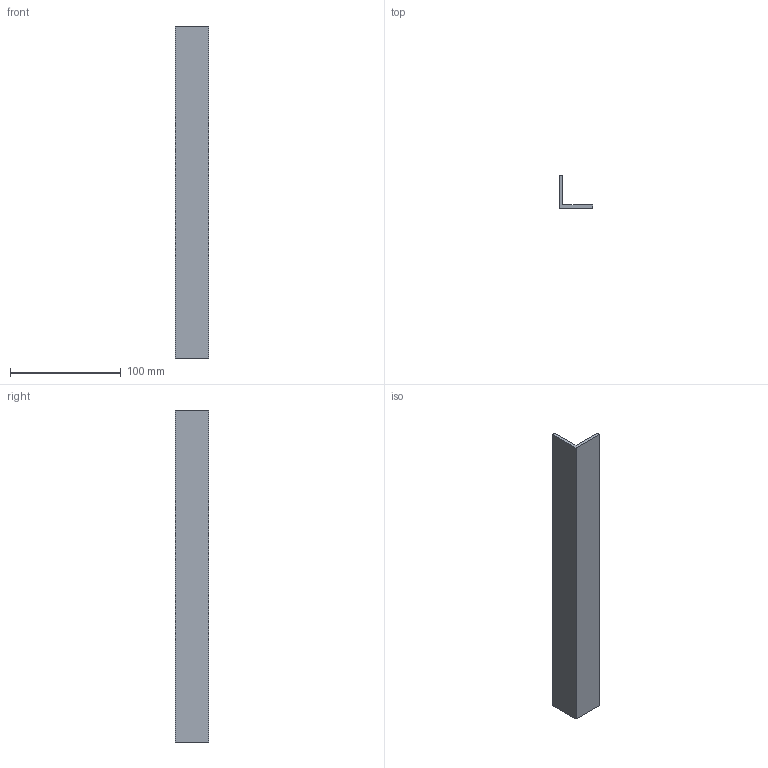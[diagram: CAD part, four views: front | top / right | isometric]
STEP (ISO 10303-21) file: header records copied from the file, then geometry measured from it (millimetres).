
FILE_DESCRIPTION (( 'STEP AP203' ), '1' );
FILE_NAME ('45-3-30-30褒臏.STEP', '2015-07-07T03:59:04', ( '' ), ( '' ), 'SwSTEP 2.0', 'SolidWorks 2013', '' );
FILE_SCHEMA (( 'CONFIG_CONTROL_DESIGN' ));
Length unit declared in the file: millimetre
Products named in the file (1): 45-3-30-30褒臏
Bounding box: 30 x 30 x 300 mm (x, y, z)
Volume: 51300 mm3; surface area: 36342 mm2
Topology: 1 solids, 1 shells, 8 faces, 18 edges, 12 vertices
Faces by surface type: plane 8
Entity records: 299 total; most frequent: CARTESIAN_POINT 39, ORIENTED_EDGE 36, DIRECTION 36, EDGE_CURVE 18, LINE 18, VECTOR 18, VERTEX_POINT 12, AXIS2_PLACEMENT_3D 9
